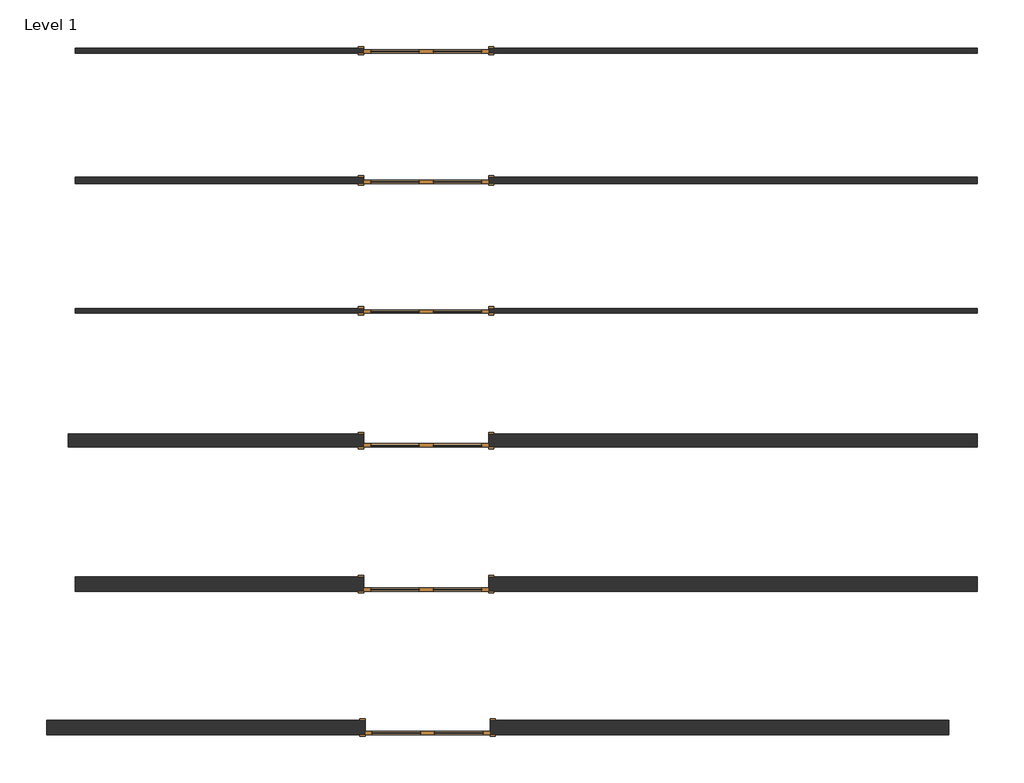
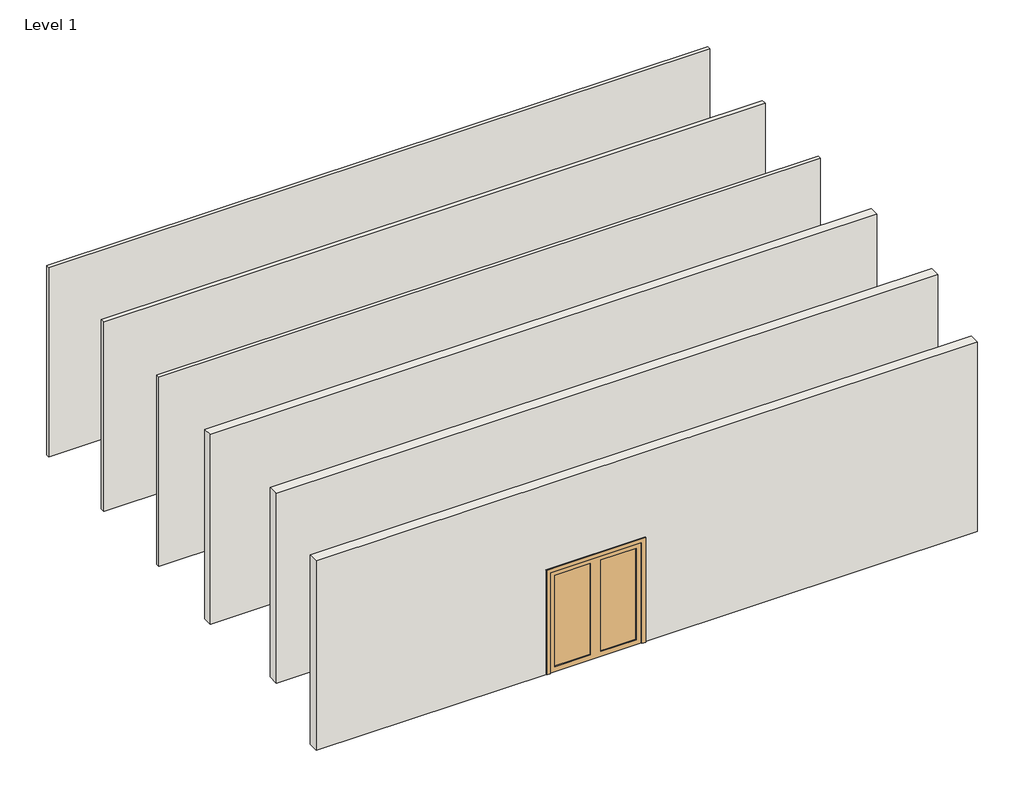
# One storey: 6 doors, 6 walls.
"""IFC4 building model written with IfcOpenShell, lengths in millimetres."""

from ifc_helpers import new_model, si_unit, frame, origin, place, context, project, spatial, polyline, outline, extrude, transform, mapped, element, save
from components import door_b569b102, door_9b66a9c8, door_ce3cf271, door_3f6e6fd8

model = new_model("IFC4")

# Units and contexts
model_context = context("Model", 3, world=origin())
ifc_project = project(units=[si_unit("LENGTHUNIT", "METRE", prefix="MILLI")], contexts=[model_context])

# Site, building, storey
site = spatial("IfcSite", under=ifc_project)
building = spatial("IfcBuilding", under=site)
storey = spatial("IfcBuildingStorey", under=building, Name="Level 1", Elevation=0.0)

# Doors
placement = place(None, origin())
door_shape = door_b569b102(model_context)
element("IfcDoor", 1, ObjectType="Double-Glass 1 : 72\" x 84\"", at=placement, inside=storey, context=model_context, shape_type="MappedRepresentation", body=[
    mapped(door_shape, transform((37572.3933827, 10733.7193663, 0.0), x_axis=(-1.0, 0.0, 0.0), y_axis=(0.0, -1.0, 0.0), z_axis=(0.0, 0.0, 1.0))),
])
door_2_shape = door_9b66a9c8(model_context)
element("IfcDoor", 2, ObjectType="Double-Glass 1 : 72\" x 84\"", at=placement, inside=storey, context=model_context, shape_type="MappedRepresentation", body=[
    mapped(door_2_shape, transform((37572.3933827, 8833.7193663, 0.0), x_axis=(-1.0, 0.0, 0.0), y_axis=(0.0, -1.0, 0.0), z_axis=(0.0, 0.0, 1.0))),
])
element("IfcDoor", 3, ObjectType="Double-Glass 1 : 72\" x 84\"", at=placement, inside=storey, context=model_context, shape_type="MappedRepresentation", body=[
    mapped(door_shape, transform((37572.3933827, 6923.7193663, 0.0), x_axis=(-1.0, 0.0, 0.0), y_axis=(0.0, -1.0, 0.0), z_axis=(0.0, 0.0, 1.0))),
])
door_3_shape = door_ce3cf271(model_context)
element("IfcDoor", 4, ObjectType="Double-Glass 1 : 72\" x 84\"", at=placement, inside=storey, context=model_context, shape_type="MappedRepresentation", body=[
    mapped(door_3_shape, transform((37572.3933827, 5023.7193663, 0.0), x_axis=(-1.0, 0.0, 0.0), y_axis=(0.0, -1.0, 0.0), z_axis=(0.0, 0.0, 1.0))),
])
door_4_shape = door_3f6e6fd8(model_context)
element("IfcDoor", 5, ObjectType="Double-Glass 1 : 72\" x 84\"", at=placement, inside=storey, context=model_context, shape_type="MappedRepresentation", body=[
    mapped(door_4_shape, transform((37572.3933827, 2923.7193663, 0.0), x_axis=(-1.0, 0.0, 0.0), y_axis=(0.0, -1.0, 0.0), z_axis=(0.0, 0.0, 1.0))),
])
element("IfcDoor", 6, ObjectType="Double-Glass 1 : 72\" x 84\"", at=placement, inside=storey, context=model_context, shape_type="MappedRepresentation", body=[
    mapped(door_4_shape, transform((37592.3933827, 823.7193663, 0.0), x_axis=(-1.0, 0.0, 0.0), y_axis=(0.0, -1.0, 0.0), z_axis=(0.0, 0.0, 1.0))),
])

# Walls
element("IfcWall", 7, ObjectType="Panel System®TC7", at=placement, inside=storey, context=model_context, shape_type="SweptSolid", body=[
    extrude(outline(polyline([(0.0, 32437.9933827), (0.0, 36657.9933827), (2133.6, 36657.9933827), (2133.6, 38486.7933827), (0.0, 38486.7933827), (0.0, 45637.9933827), (4000.0, 45637.9933827), (4000.0, 32437.9933827), (0.0, 32437.9933827)])), frame((0.0, 10696.3381163, 0.0), z_axis=(0.0, 1.0, 0.0), x_axis=(0.0, 0.0, 1.0)), (0.0, 0.0, 1.0), 70.0),
])
element("IfcWall", 8, ObjectType="Panel System®TC9", at=placement, inside=storey, context=model_context, shape_type="SweptSolid", body=[
    extrude(outline(polyline([(0.0, 32437.9933827), (0.0, 36657.9933827), (2133.6, 36657.9933827), (2133.6, 38486.7933827), (0.0, 38486.7933827), (0.0, 45637.9933827), (4000.0, 45637.9933827), (4000.0, 32437.9933827), (0.0, 32437.9933827)])), frame((0.0, 8786.3381163, 0.0), z_axis=(0.0, 1.0, 0.0), x_axis=(0.0, 0.0, 1.0)), (0.0, 0.0, 1.0), 90.0),
])
element("IfcWall", 9, ObjectType="Panel System®Thermic Partition", at=placement, inside=storey, context=model_context, shape_type="SweptSolid", body=[
    extrude(outline(polyline([(0.0, 32437.9933827), (0.0, 36657.9933827), (2133.6, 36657.9933827), (2133.6, 38486.7933827), (0.0, 38486.7933827), (0.0, 45637.9933827), (4000.0, 45637.9933827), (4000.0, 32437.9933827), (0.0, 32437.9933827)])), frame((0.0, 6886.3381163, 0.0), z_axis=(0.0, 1.0, 0.0), x_axis=(0.0, 0.0, 1.0)), (0.0, 0.0, 1.0), 70.0),
])
element("IfcWall", 10, ObjectType="Panel System®TC7+TC7", at=placement, inside=storey, context=model_context, shape_type="SweptSolid", body=[
    extrude(outline(polyline([(0.0, 32337.9933827), (0.0, 36657.9933827), (2133.6, 36657.9933827), (2133.6, 38486.7933827), (0.0, 38486.7933827), (0.0, 45637.9933827), (4000.0, 45637.9933827), (4000.0, 32337.9933827), (0.0, 32337.9933827)])), frame((0.0, 4926.3381163, 0.0), z_axis=(0.0, 1.0, 0.0), x_axis=(0.0, 0.0, 1.0)), (0.0, 0.0, 1.0), 190.0),
])
element("IfcWall", 11, ObjectType="Panel System®TC7+TC9", at=placement, inside=storey, context=model_context, shape_type="SweptSolid", body=[
    extrude(outline(polyline([(0.0, 32437.9933827), (0.0, 36657.9933827), (2133.6, 36657.9933827), (2133.6, 38486.7933827), (0.0, 38486.7933827), (0.0, 45637.9933827), (4000.0, 45637.9933827), (4000.0, 32437.9933827), (0.0, 32437.9933827)])), frame((0.0, 2816.3381163, 0.0), z_axis=(0.0, 1.0, 0.0), x_axis=(0.0, 0.0, 1.0)), (0.0, 0.0, 1.0), 210.0),
])
element("IfcWall", 12, ObjectType="Panel System®TC9+TC9", at=placement, inside=storey, context=model_context, shape_type="SweptSolid", body=[
    extrude(outline(polyline([(0.0, 32017.9933827), (0.0, 36677.9933827), (2133.6, 36677.9933827), (2133.6, 38506.7933827), (0.0, 38506.7933827), (0.0, 45217.9933827), (4000.0, 45217.9933827), (4000.0, 32017.9933827), (0.0, 32017.9933827)])), frame((0.0, 716.3381163, 0.0), z_axis=(0.0, 1.0, 0.0), x_axis=(0.0, 0.0, 1.0)), (0.0, 0.0, 1.0), 210.0),
])

save(model, "model.ifc")
